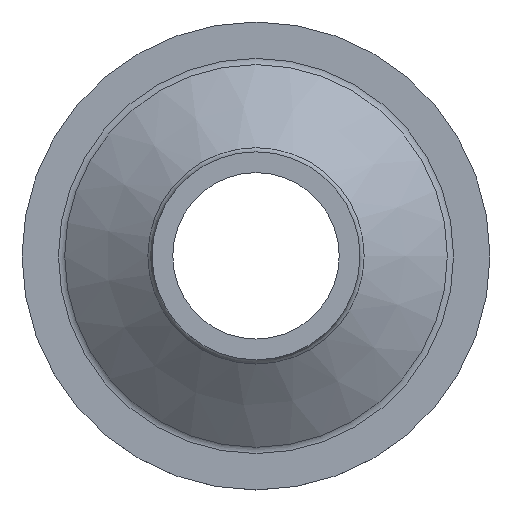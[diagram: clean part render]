
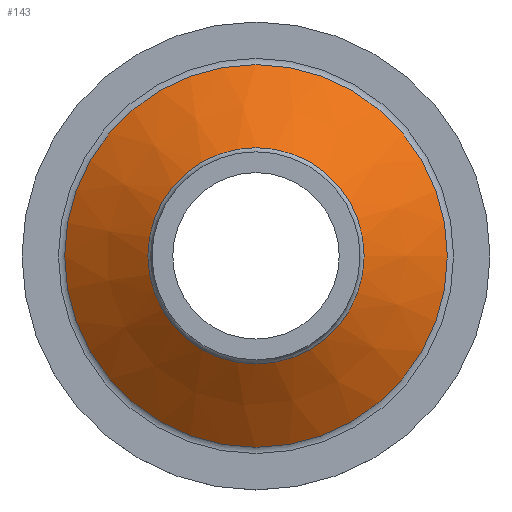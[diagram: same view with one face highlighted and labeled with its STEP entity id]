
A CAD part, top view. The second image highlights one B-rep face of the part: STEP entity #143.
In plain terms, the highlighted conical face has half-angle 53.13 degrees and reference radius 10.4 mm.
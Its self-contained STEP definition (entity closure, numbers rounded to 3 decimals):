
#98=CARTESIAN_POINT('',(18.4,0.,1.7));
#99=VERTEX_POINT('',#98);
#107=CARTESIAN_POINT('',(0.,0.,1.7));
#108=DIRECTION('',(1.,0.,0.));
#109=DIRECTION('',(0.,0.,1.));
#110=AXIS2_PLACEMENT_3D('',#107,#109,#108);
#111=CIRCLE('',#110,18.4);
#112=EDGE_CURVE('',#99,#99,#111,.T.);
#119=CARTESIAN_POINT('',(0.,0.,7.7));
#120=DIRECTION('',(1.,0.,0.));
#121=DIRECTION('',(0.,0.,-1.));
#122=AXIS2_PLACEMENT_3D('',#119,#121,#120);
#123=CONICAL_SURFACE('',#122,10.4,0.927);
#124=CARTESIAN_POINT('',(10.4,0.,7.7));
#125=VERTEX_POINT('',#124);
#126=CARTESIAN_POINT('',(18.4,0.,1.7));
#127=DIRECTION('',(-0.8,0.,0.6));
#128=VECTOR('',#127,10.);
#129=LINE('',#126,#128);
#130=EDGE_CURVE('',#99,#125,#129,.T.);
#131=ORIENTED_EDGE('E3',*,*,#130,.T.);
#132=CARTESIAN_POINT('',(0.,0.,7.7));
#133=DIRECTION('',(1.,0.,0.));
#134=DIRECTION('',(0.,0.,1.));
#135=AXIS2_PLACEMENT_3D('',#132,#134,#133);
#136=CIRCLE('',#135,10.4);
#137=EDGE_CURVE('',#125,#125,#136,.T.);
#138=ORIENTED_EDGE('E12',*,*,#137,.T.);
#139=ORIENTED_EDGE('E12',*,*,#130,.F.);
#140=ORIENTED_EDGE('E12',*,*,#112,.F.);
#141=EDGE_LOOP('',(#131,#138,#139,#140));
#142=FACE_OUTER_BOUND('',#141,.F.);
#143=ADVANCED_FACE('F5',(#142),#123,.T.);
